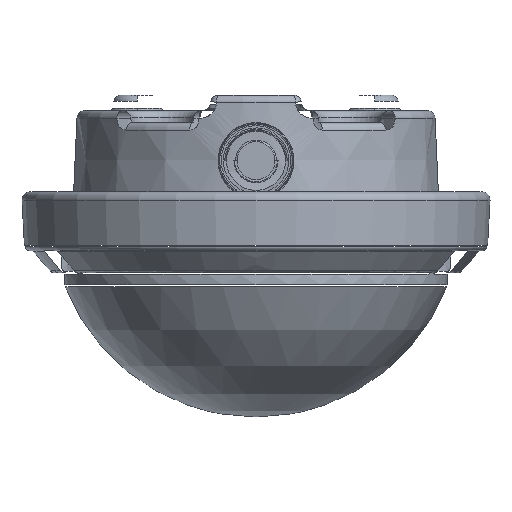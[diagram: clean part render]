
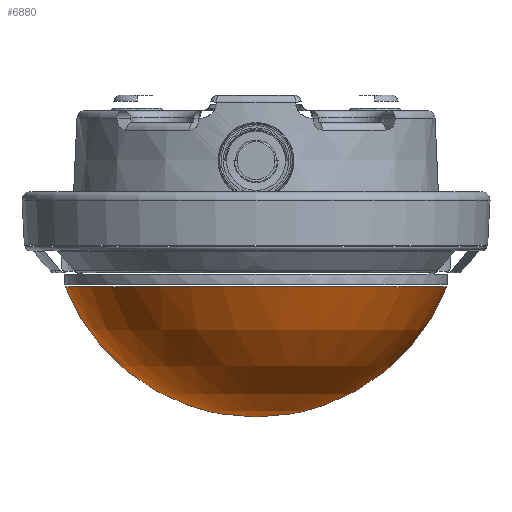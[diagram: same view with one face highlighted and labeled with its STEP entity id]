
A CAD part, left-side view. The second image highlights one B-rep face of the part: STEP entity #6880.
In plain terms, the highlighted spherical face has radius 65.55 mm.
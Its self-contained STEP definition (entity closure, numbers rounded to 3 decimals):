
#5516=CARTESIAN_POINT('',(-36.3,0.,10.55));
#5517=DIRECTION('',(-1.,0.,0.));
#5518=DIRECTION('',(0.,0.931,-0.365));
#5519=AXIS2_PLACEMENT_3D('',#5516,#5517,#5518);
#5521=CARTESIAN_POINT('',(-36.3,0.,10.55));
#5522=DIRECTION('',(1.,0.,0.));
#5523=DIRECTION('',(0.,-0.931,-0.365));
#5524=AXIS2_PLACEMENT_3D('',#5521,#5522,#5523);
#5615=CARTESIAN_POINT('',(-36.3,0.,-13.407));
#5616=DIRECTION('',(0.,0.,1.));
#5617=DIRECTION('',(0.,1.,0.));
#5618=AXIS2_PLACEMENT_3D('',#5615,#5616,#5617);
#6463=CARTESIAN_POINT('',(-36.3,-61.015,-13.407));
#6465=VERTEX_POINT('',#6463);
#6515=CARTESIAN_POINT('',(-36.3,61.015,-13.407));
#6517=VERTEX_POINT('',#6515);
#6520=CARTESIAN_POINT('',(-36.3,0.,-55.));
#6521=VERTEX_POINT('',#6520);
#6869=CARTESIAN_POINT('',(-36.3,0.,10.55));
#6870=DIRECTION('',(0.,0.,1.));
#6871=DIRECTION('',(0.,-1.,0.));
#6872=AXIS2_PLACEMENT_3D('',#6869,#6870,#6871);
#6873=SPHERICAL_SURFACE('',#6872,65.55);
#6874=ORIENTED_EDGE('',*,*,#6734,.T.);
#6875=ORIENTED_EDGE('',*,*,#6732,.F.);
#6877=ORIENTED_EDGE('',*,*,#6876,.T.);
#6878=EDGE_LOOP('',(#6874,#6875,#6877));
#6879=FACE_OUTER_BOUND('',#6878,.F.);
#6880=ADVANCED_FACE('',(#6879),#6873,.T.);
#5520=CIRCLE('',#5519,65.55);
#5525=CIRCLE('',#5524,65.55);
#5619=CIRCLE('',#5618,61.015);
#6732=EDGE_CURVE('',#6517,#6521,#5520,.T.);
#6734=EDGE_CURVE('',#6465,#6521,#5525,.T.);
#6876=EDGE_CURVE('',#6517,#6465,#5619,.T.);
